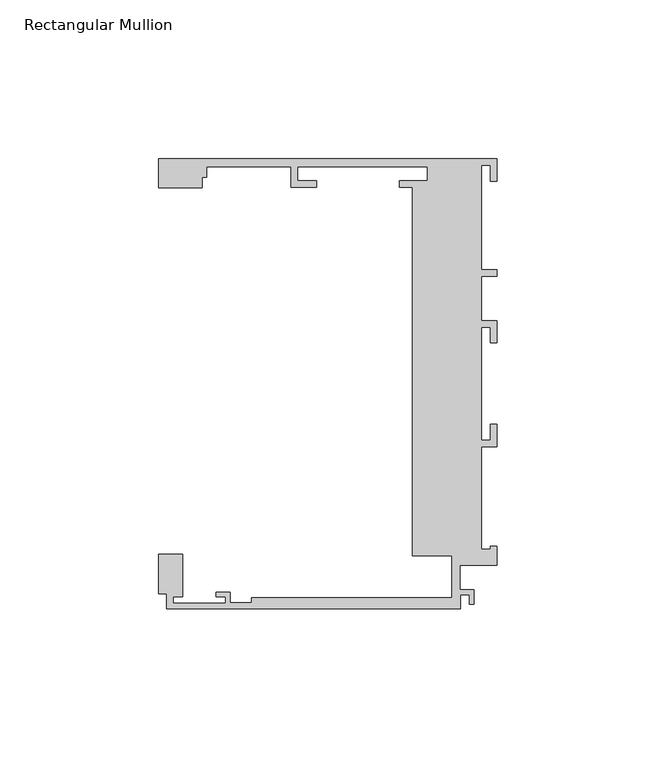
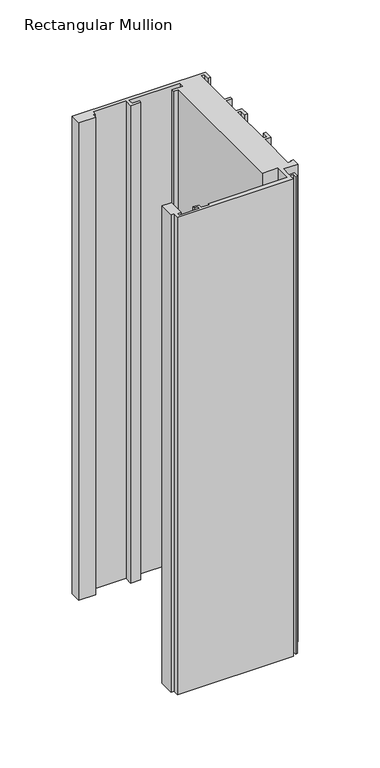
"""IFC4 building model written with IfcOpenShell, lengths in millimetres: member geometry, Rectangular Mullion : Danpal_K12_End-Mullion_B1."""

import ifcopenshell
import ifcopenshell.guid

model = None  # the IFC model being written
_history = None  # IfcOwnerHistory: only IFC2X3 demands one
_inside = {}  # id of a spatial element -> (the spatial element, [elements in it])
_under = {}  # id of a project, library or spatial element -> (it, [spatial elements below it])
_declared = {}  # id of a project -> (the project, [libraries it declares])
_typed = {}  # id of a type object -> (the type object, [elements of that type])
_made_of = {}  # id of a material, layer set ... -> (it, [elements and type objects made of it])


def new_model(schema):
    """Start an empty IFC model of exactly this schema.

    Asked for "IFC4X3", IfcOpenShell would pick the latest addendum, in which some entities
    have other attributes; the version numbers below select the first issue.
    IFC2X3 requires an IfcOwnerHistory on every rooted entity: one is made here for all.
    """
    global model, _history
    if schema == "IFC4X3":
        model = ifcopenshell.file(schema_version=(4, 3, 0, 0))
    else:
        model = ifcopenshell.file(schema=schema)
    _inside.clear()
    _under.clear()
    _declared.clear()
    _typed.clear()
    _made_of.clear()
    _history = None
    if model.schema == "IFC2X3":
        org = make("IfcOrganization", Name="unknown")
        user = make(
            "IfcPersonAndOrganization",
            ThePerson=make("IfcPerson", FamilyName="unknown"),
            TheOrganization=org,
        )
        app = make(
            "IfcApplication",
            ApplicationDeveloper=org,
            Version="unknown",
            ApplicationFullName="unknown",
            ApplicationIdentifier="unknown",
        )
        _history = make(
            "IfcOwnerHistory",
            OwningUser=user,
            OwningApplication=app,
            ChangeAction="ADDED",
            CreationDate=0,
        )
    return model


def make(cls, **values):
    """One entity of the class cls with the attributes given. An attribute that is None is left unset."""
    return model.create_entity(
        cls, **{name: value for name, value in values.items() if value is not None}
    )


def rooted(cls, **values):
    """An entity with a GlobalId (a new one), such as an element, a storey or a relation."""
    return make(cls, GlobalId=ifcopenshell.guid.new(), OwnerHistory=_history, **values)


def si_unit(unit_type, name, prefix=None):
    """IfcSIUnit, for example si_unit("LENGTHUNIT", "METRE", prefix="MILLI")."""
    return make("IfcSIUnit", UnitType=unit_type, Prefix=prefix, Name=name)


def assignment(units):
    """IfcUnitAssignment: the units of a project."""
    return None if units is None else make("IfcUnitAssignment", Units=units)


def point(xyz):
    """IfcCartesianPoint."""
    return None if xyz is None else make("IfcCartesianPoint", Coordinates=xyz)


def direction(xyz):
    """IfcDirection."""
    return None if xyz is None else make("IfcDirection", DirectionRatios=xyz)


def frame(location, z_axis=None, x_axis=None):
    """IfcAxis2Placement3D, a coordinate frame: its origin and axes. An axis left out is left unset."""
    return make(
        "IfcAxis2Placement3D",
        Location=point(location),
        Axis=direction(z_axis),
        RefDirection=direction(x_axis),
    )


def origin():
    """The frame at (0, 0, 0) with its axes left unset."""
    return frame((0.0, 0.0, 0.0))


def place(relative_to, where):
    """IfcLocalPlacement: puts the frame where relative to a parent placement (None: the world)."""
    return make(
        "IfcLocalPlacement", PlacementRelTo=relative_to, RelativePlacement=where
    )


def context(
    kind, dimensions, precision=None, world=None, true_north=None, identifier=None
):
    """IfcGeometricRepresentationContext, for example the 3D "Model" context."""
    return make(
        "IfcGeometricRepresentationContext",
        ContextIdentifier=identifier,
        ContextType=kind,
        CoordinateSpaceDimension=dimensions,
        Precision=precision,
        WorldCoordinateSystem=world,
        TrueNorth=true_north,
    )


def project(units=None, contexts=None):
    """IfcProject with its units and contexts."""
    return rooted(
        "IfcProject",
        Name="project",
        RepresentationContexts=contexts,
        UnitsInContext=assignment(units),
    )


def spatial(cls, under=None, at=None, **own):
    """A site, building, storey or space (cls), placed at a placement, below another one or the project."""
    s = rooted(cls, ObjectPlacement=at, **own)
    if under is not None:
        _under.setdefault(under.id(), (under, []))[1].append(s)
    return s


def polyline(points):
    """IfcPolyline through the points."""
    return make("IfcPolyline", Points=[point(p) for p in points])


def outline(outer, holes=None, kind="AREA"):
    """IfcArbitraryClosedProfileDef: a profile drawn as a closed curve; with holes, ...WithVoids."""
    if holes is None:
        return make("IfcArbitraryClosedProfileDef", ProfileType=kind, OuterCurve=outer)
    return make(
        "IfcArbitraryProfileDefWithVoids",
        ProfileType=kind,
        OuterCurve=outer,
        InnerCurves=holes,
    )


def extrude(swept, where, along, depth):
    """IfcExtrudedAreaSolid: the profile swept, set in the frame where, extruded along a direction by depth."""
    return make(
        "IfcExtrudedAreaSolid",
        SweptArea=swept,
        Position=where,
        ExtrudedDirection=direction(along),
        Depth=depth,
    )


def shape(context_of_items, identifier, shape_type, items):
    """IfcShapeRepresentation: the items that make up one representation, for example the "Body"."""
    return make(
        "IfcShapeRepresentation",
        ContextOfItems=context_of_items,
        RepresentationIdentifier=identifier,
        RepresentationType=shape_type,
        Items=items,
    )


def source(mapping_origin, context_of_items, identifier, shape_type, items):
    """IfcRepresentationMap: a shape defined once, which mapped items show again and again."""
    return make(
        "IfcRepresentationMap",
        MappingOrigin=mapping_origin,
        MappedRepresentation=shape(context_of_items, identifier, shape_type, items),
    )


def transform(
    local_origin,
    x_axis=None,
    y_axis=None,
    z_axis=None,
    scale=None,
    scale2=None,
    scale3=None,
    uniform=True,
):
    """IfcCartesianTransformationOperator3D, or its non-uniform kind. x_axis, y_axis, z_axis: its Axis1, 2, 3."""
    if uniform:
        return make(
            "IfcCartesianTransformationOperator3D",
            Axis1=direction(x_axis),
            Axis2=direction(y_axis),
            LocalOrigin=point(local_origin),
            Scale=scale,
            Axis3=direction(z_axis),
        )
    return make(
        "IfcCartesianTransformationOperator3DnonUniform",
        Axis1=direction(x_axis),
        Axis2=direction(y_axis),
        LocalOrigin=point(local_origin),
        Scale=scale,
        Axis3=direction(z_axis),
        Scale2=scale2,
        Scale3=scale3,
    )


def mapped(mapping_source, mapping_target):
    """IfcMappedItem: shows the shape of a source again, moved by a transform."""
    return make(
        "IfcMappedItem", MappingSource=mapping_source, MappingTarget=mapping_target
    )


def made_of(thing, what):
    """Note that an element or type object is made of a material, layer set ...; save() writes the relation."""
    if what is not None:
        _made_of.setdefault(what.id(), (what, []))[1].append(thing)
    return thing


def element(
    cls,
    number,
    at=None,
    inside=None,
    cuts=None,
    type_object=None,
    material=None,
    context=None,
    identifier="Body",
    shape_type=None,
    held_by="IfcProductDefinitionShape",
    body=None,
    shapes=None,
    **own,
):
    """One element of the class cls, such as IfcWall. Its Tag is "e" and its number.

    at: its placement. inside: the storey or other place that contains it. cuts: it is an
    opening in that element (IfcRelVoidsElement). A single representation is given by context,
    identifier, shape_type and body (its items); several are given by shapes. held_by: the class
    of the entity that holds the representations. save() writes the other relations.
    """
    e = rooted(cls, Tag="e%d" % number, ObjectPlacement=at, **own)
    if body is not None:
        shapes = [shape(context, identifier, shape_type, body)]
    if shapes is not None:
        e.Representation = make(held_by, Representations=shapes)
    if inside is not None:
        _inside.setdefault(inside.id(), (inside, []))[1].append(e)
    if cuts is not None:
        rooted(
            "IfcRelVoidsElement", RelatingBuildingElement=cuts, RelatedOpeningElement=e
        )
    if type_object is not None:
        _typed.setdefault(type_object.id(), (type_object, []))[1].append(e)
    return made_of(e, material)


def aggregate(whole, parts):
    """IfcRelAggregates: a whole, such as a stair, and the parts it consists of."""
    return rooted("IfcRelAggregates", RelatingObject=whole, RelatedObjects=parts)


def save(model, path):
    """Write the relations noted so far, then the file.

    IfcRelAggregates (storeys below a building ...), IfcRelContainedInSpatialStructure (elements
    in a storey), IfcRelDefinesByType, IfcRelAssociatesMaterial and IfcRelDeclares: one each for
    every whole, place, type object, material and project.
    """
    for whole, parts in _under.values():
        aggregate(whole, parts)
    for where, things in _inside.values():
        rooted(
            "IfcRelContainedInSpatialStructure",
            RelatedElements=things,
            RelatingStructure=where,
        )
    for kind, things in _typed.values():
        rooted("IfcRelDefinesByType", RelatedObjects=things, RelatingType=kind)
    for what, things in _made_of.values():
        rooted("IfcRelAssociatesMaterial", RelatedObjects=things, RelatingMaterial=what)
    for by, libraries in _declared.values():
        rooted("IfcRelDeclares", RelatingContext=by, RelatedDefinitions=libraries)
    model.write(path)


def rectangular_mullion_a5aec3a2(model_context):
    return source(origin(), model_context, "Body", "SweptSolid", [
        extrude(outline(polyline([(-26.6209612, 117.8676658), (-30.6, 117.8676658), (-30.6, 119.8676658), (-21.835, 119.8676658), (-21.835, 124.2676658), (-62.7350275, 124.2676658), (-62.7350275, 119.8676658), (-56.7350275, 119.8676658), (-56.7350275, 117.8676658), (-64.7350275, 117.8676658), (-64.7350275, 124.2676658), (-91.2900275, 124.2676658), (-91.2900275, 121.0676175), (-92.8228167, 121.0676175), (-92.8228167, 117.6986749), (-106.4117426, 117.6986749), (-106.4117426, 126.7676657), (0.0, 126.7676657), (0.0, 119.7676657), (-2.0, 119.7676657), (-2.0, 124.7676657), (-4.8, 124.7676657), (-4.8, 91.8676485), (0.0, 91.8676485), (0.0, 89.8676485), (-4.8, 89.8676485), (-4.8, 75.867683), (0.0, 75.867683), (0.0, 68.8676657), (-2.0, 68.8676657), (-2.0, 73.8676657), (-4.8, 73.8676657), (-4.8, 38.2443486), (-2.0, 38.2443486), (-2.0, 43.2443486), (0.0, 43.2443486), (0.0, 36.2443486), (-4.8, 36.2443486), (-4.8, 3.9448486), (-2.0, 3.9448486), (-2.0, 4.9448486), (0.0, 4.9448486), (0.0, -1.0551514), (-11.6055875, -1.0551514), (-11.6055875, -8.8006425), (-7.1518595, -8.8006425), (-7.1518595, -13.3051514), (-8.6518595, -13.3051514), (-8.6518595, -10.3006425), (-11.4019537, -10.3006425), (-11.4019537, -14.8051514), (-103.8999976, -14.8051514), (-103.8999976, -10.065304), (-106.4117426, -10.065304), (-106.4117426, 2.316674), (-98.8999976, 2.316674), (-98.8999976, -11.0051513), (-101.8999976, -11.0051513), (-101.8999976, -13.0051512), (-85.3999976, -13.0051512), (-85.3999976, -11.0051513), (-88.3999976, -11.0051513), (-88.3999976, -9.5051512), (-83.8999976, -9.5051512), (-83.8999976, -12.8051513), (-77.1531178, -12.8051513), (-77.1531178, -11.3051512), (-14.1055875, -11.3051512), (-14.1055875, 1.9446289), (-26.6209612, 1.9446289), (-26.6209612, 117.8676658)])), frame((0.0, 0.0, -402.970611), z_axis=(0.0, 0.0, 1.0), x_axis=(1.0, 0.0, 0.0)), (0.0, 0.0, 1.0), 402.970611),
    ])


if __name__ == "__main__":
    model = new_model("IFC4")
    model_context = context("Model", 3, world=origin())
    ifc_project = project(units=[si_unit("LENGTHUNIT", "METRE", prefix="MILLI")], contexts=[model_context])
    site = spatial("IfcSite", under=ifc_project)
    building = spatial("IfcBuilding", under=site)
    placement = place(None, origin())
    rectangular_mullion_shape = rectangular_mullion_a5aec3a2(model_context)
    element("IfcMember", 1, ObjectType="Rectangular Mullion : Danpal_K12_End-Mullion_B1", at=placement, inside=building, context=model_context, shape_type="MappedRepresentation", body=[
        mapped(rectangular_mullion_shape, transform((0.0, 0.0, 0.0), x_axis=(1.0, 0.0, 0.0), y_axis=(0.0, 1.0, 0.0), z_axis=(0.0, 0.0, 1.0))),
    ])
    save(model, "model.ifc")
